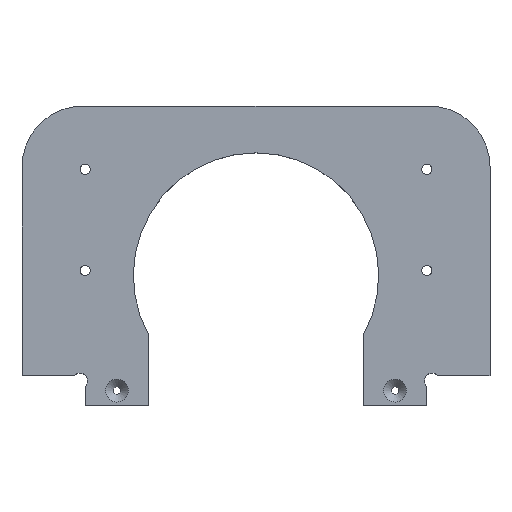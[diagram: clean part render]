
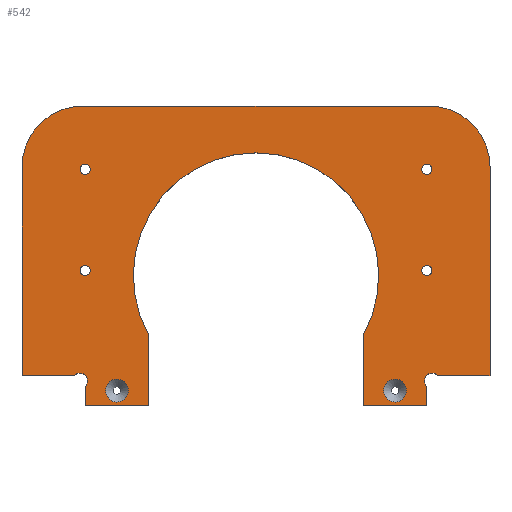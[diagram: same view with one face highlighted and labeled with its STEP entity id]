
A CAD part, top view. The second image highlights one B-rep face of the part: STEP entity #542.
In plain terms, the highlighted planar face has unit normal (0, 0, 1).
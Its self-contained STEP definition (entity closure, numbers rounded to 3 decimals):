
#26=FACE_BOUND('',#83,.T.);
#27=FACE_BOUND('',#84,.T.);
#28=FACE_BOUND('',#85,.T.);
#29=FACE_BOUND('',#86,.T.);
#30=FACE_BOUND('',#87,.T.);
#31=FACE_BOUND('',#88,.T.);
#38=PLANE('',#588);
#52=FACE_OUTER_BOUND('',#82,.T.);
#82=EDGE_LOOP('',(#383,#384,#385,#386,#387,#388,#389,#390,#391,#392,#393,
#394,#395,#396,#397,#398));
#83=EDGE_LOOP('',(#399));
#84=EDGE_LOOP('',(#400));
#85=EDGE_LOOP('',(#401));
#86=EDGE_LOOP('',(#402));
#87=EDGE_LOOP('',(#403));
#88=EDGE_LOOP('',(#404));
#124=LINE('',#823,#174);
#125=LINE('',#825,#175);
#126=LINE('',#827,#176);
#127=LINE('',#831,#177);
#128=LINE('',#833,#178);
#129=LINE('',#835,#179);
#130=LINE('',#839,#180);
#131=LINE('',#841,#181);
#132=LINE('',#845,#182);
#133=LINE('',#849,#183);
#134=LINE('',#850,#184);
#174=VECTOR('',#656,10.);
#175=VECTOR('',#657,10.);
#176=VECTOR('',#658,10.);
#177=VECTOR('',#661,10.);
#178=VECTOR('',#662,10.);
#179=VECTOR('',#663,10.);
#180=VECTOR('',#666,10.);
#181=VECTOR('',#667,10.);
#182=VECTOR('',#670,10.);
#183=VECTOR('',#673,10.);
#184=VECTOR('',#674,10.);
#223=CIRCLE('',#586,4.5);
#225=CIRCLE('',#589,3.05);
#226=CIRCLE('',#590,48.5);
#227=CIRCLE('',#591,3.05);
#228=CIRCLE('',#592,24.);
#229=CIRCLE('',#593,24.);
#230=CIRCLE('',#594,4.5);
#231=CIRCLE('',#595,2.);
#232=CIRCLE('',#596,2.);
#233=CIRCLE('',#597,2.);
#234=CIRCLE('',#598,2.);
#251=VERTEX_POINT('',#813);
#253=VERTEX_POINT('',#819);
#254=VERTEX_POINT('',#820);
#255=VERTEX_POINT('',#822);
#256=VERTEX_POINT('',#824);
#257=VERTEX_POINT('',#826);
#258=VERTEX_POINT('',#828);
#259=VERTEX_POINT('',#830);
#260=VERTEX_POINT('',#832);
#261=VERTEX_POINT('',#834);
#262=VERTEX_POINT('',#836);
#263=VERTEX_POINT('',#838);
#264=VERTEX_POINT('',#840);
#265=VERTEX_POINT('',#842);
#266=VERTEX_POINT('',#844);
#267=VERTEX_POINT('',#846);
#268=VERTEX_POINT('',#848);
#269=VERTEX_POINT('',#851);
#270=VERTEX_POINT('',#853);
#271=VERTEX_POINT('',#855);
#272=VERTEX_POINT('',#857);
#273=VERTEX_POINT('',#859);
#301=EDGE_CURVE('',#251,#251,#223,.T.);
#304=EDGE_CURVE('',#253,#254,#225,.T.);
#305=EDGE_CURVE('',#254,#255,#124,.T.);
#306=EDGE_CURVE('',#256,#255,#125,.T.);
#307=EDGE_CURVE('',#256,#257,#126,.T.);
#308=EDGE_CURVE('',#257,#258,#226,.T.);
#309=EDGE_CURVE('',#258,#259,#127,.T.);
#310=EDGE_CURVE('',#260,#259,#128,.T.);
#311=EDGE_CURVE('',#261,#260,#129,.T.);
#312=EDGE_CURVE('',#261,#262,#227,.T.);
#313=EDGE_CURVE('',#262,#263,#130,.T.);
#314=EDGE_CURVE('',#264,#263,#131,.T.);
#315=EDGE_CURVE('',#265,#264,#228,.T.);
#316=EDGE_CURVE('',#266,#265,#132,.T.);
#317=EDGE_CURVE('',#267,#266,#229,.T.);
#318=EDGE_CURVE('',#267,#268,#133,.T.);
#319=EDGE_CURVE('',#268,#253,#134,.T.);
#320=EDGE_CURVE('',#269,#269,#230,.T.);
#321=EDGE_CURVE('',#270,#270,#231,.T.);
#322=EDGE_CURVE('',#271,#271,#232,.T.);
#323=EDGE_CURVE('',#272,#272,#233,.T.);
#324=EDGE_CURVE('',#273,#273,#234,.T.);
#383=ORIENTED_EDGE('',*,*,#304,.T.);
#384=ORIENTED_EDGE('',*,*,#305,.T.);
#385=ORIENTED_EDGE('',*,*,#306,.F.);
#386=ORIENTED_EDGE('',*,*,#307,.T.);
#387=ORIENTED_EDGE('',*,*,#308,.T.);
#388=ORIENTED_EDGE('',*,*,#309,.T.);
#389=ORIENTED_EDGE('',*,*,#310,.F.);
#390=ORIENTED_EDGE('',*,*,#311,.F.);
#391=ORIENTED_EDGE('',*,*,#312,.T.);
#392=ORIENTED_EDGE('',*,*,#313,.T.);
#393=ORIENTED_EDGE('',*,*,#314,.F.);
#394=ORIENTED_EDGE('',*,*,#315,.F.);
#395=ORIENTED_EDGE('',*,*,#316,.F.);
#396=ORIENTED_EDGE('',*,*,#317,.F.);
#397=ORIENTED_EDGE('',*,*,#318,.T.);
#398=ORIENTED_EDGE('',*,*,#319,.T.);
#399=ORIENTED_EDGE('',*,*,#320,.F.);
#400=ORIENTED_EDGE('',*,*,#321,.F.);
#401=ORIENTED_EDGE('',*,*,#322,.F.);
#402=ORIENTED_EDGE('',*,*,#323,.F.);
#403=ORIENTED_EDGE('',*,*,#324,.F.);
#404=ORIENTED_EDGE('',*,*,#301,.F.);
#542=ADVANCED_FACE('',(#52,#26,#27,#28,#29,#30,#31),#38,.F.);
#586=AXIS2_PLACEMENT_3D('',#814,#647,#648);
#588=AXIS2_PLACEMENT_3D('',#818,#652,#653);
#589=AXIS2_PLACEMENT_3D('',#821,#654,#655);
#590=AXIS2_PLACEMENT_3D('',#829,#659,#660);
#591=AXIS2_PLACEMENT_3D('',#837,#664,#665);
#592=AXIS2_PLACEMENT_3D('',#843,#668,#669);
#593=AXIS2_PLACEMENT_3D('',#847,#671,#672);
#594=AXIS2_PLACEMENT_3D('',#852,#675,#676);
#595=AXIS2_PLACEMENT_3D('',#854,#677,#678);
#596=AXIS2_PLACEMENT_3D('',#856,#679,#680);
#597=AXIS2_PLACEMENT_3D('',#858,#681,#682);
#598=AXIS2_PLACEMENT_3D('',#860,#683,#684);
#647=DIRECTION('center_axis',(0.,0.,1.));
#648=DIRECTION('ref_axis',(1.,0.,0.));
#652=DIRECTION('center_axis',(0.,0.,-1.));
#653=DIRECTION('ref_axis',(-1.,0.,0.));
#654=DIRECTION('center_axis',(0.,0.,-1.));
#655=DIRECTION('ref_axis',(1.,0.,0.));
#656=DIRECTION('',(0.,-1.,0.));
#657=DIRECTION('',(-1.,0.,0.));
#658=DIRECTION('',(0.,1.,0.));
#659=DIRECTION('center_axis',(0.,0.,-1.));
#660=DIRECTION('ref_axis',(-1.,0.,0.));
#661=DIRECTION('',(0.,-1.,0.));
#662=DIRECTION('',(-1.,0.,0.));
#663=DIRECTION('',(0.,-1.,0.));
#664=DIRECTION('center_axis',(0.,0.,-1.));
#665=DIRECTION('ref_axis',(-1.,0.,0.));
#666=DIRECTION('',(1.,0.,0.));
#667=DIRECTION('',(0.,-1.,0.));
#668=DIRECTION('center_axis',(0.,0.,-1.));
#669=DIRECTION('ref_axis',(0.707,0.707,0.));
#670=DIRECTION('',(1.,0.,0.));
#671=DIRECTION('center_axis',(0.,0.,-1.));
#672=DIRECTION('ref_axis',(-0.707,0.707,0.));
#673=DIRECTION('',(0.,-1.,0.));
#674=DIRECTION('',(1.,0.,0.));
#675=DIRECTION('center_axis',(0.,0.,1.));
#676=DIRECTION('ref_axis',(1.,0.,0.));
#677=DIRECTION('center_axis',(0.,0.,1.));
#678=DIRECTION('ref_axis',(-1.,0.,0.));
#679=DIRECTION('center_axis',(0.,0.,1.));
#680=DIRECTION('ref_axis',(-1.,0.,0.));
#681=DIRECTION('center_axis',(0.,0.,1.));
#682=DIRECTION('ref_axis',(-1.,0.,0.));
#683=DIRECTION('center_axis',(0.,0.,1.));
#684=DIRECTION('ref_axis',(-1.,0.,0.));
#813=CARTESIAN_POINT('',(610.003,267.7,12.));
#814=CARTESIAN_POINT('Origin',(614.503,267.7,12.));
#818=CARTESIAN_POINT('Origin',(559.503,326.95,12.));
#819=CARTESIAN_POINT('',(487.69,273.7,12.));
#820=CARTESIAN_POINT('',(492.003,269.387,12.));
#821=CARTESIAN_POINT('Origin',(489.846,271.543,12.));
#822=CARTESIAN_POINT('',(492.003,261.7,12.));
#823=CARTESIAN_POINT('',(492.003,273.7,12.));
#824=CARTESIAN_POINT('',(517.003,261.7,12.));
#825=CARTESIAN_POINT('',(538.253,261.7,12.));
#826=CARTESIAN_POINT('',(517.003,289.833,12.));
#827=CARTESIAN_POINT('',(517.003,273.7,12.));
#828=CARTESIAN_POINT('',(602.003,289.833,12.));
#829=CARTESIAN_POINT('Origin',(559.503,313.2,12.));
#830=CARTESIAN_POINT('',(602.003,261.7,12.));
#831=CARTESIAN_POINT('',(602.003,273.7,12.));
#832=CARTESIAN_POINT('',(627.003,261.7,12.));
#833=CARTESIAN_POINT('',(593.253,261.7,12.));
#834=CARTESIAN_POINT('',(627.003,269.387,12.));
#835=CARTESIAN_POINT('',(627.003,273.7,12.));
#836=CARTESIAN_POINT('',(631.316,273.7,12.));
#837=CARTESIAN_POINT('Origin',(629.16,271.543,12.));
#838=CARTESIAN_POINT('',(652.003,273.7,12.));
#839=CARTESIAN_POINT('',(605.753,273.7,12.));
#840=CARTESIAN_POINT('',(652.003,356.2,12.));
#841=CARTESIAN_POINT('',(652.003,380.2,12.));
#842=CARTESIAN_POINT('',(628.003,380.2,12.));
#843=CARTESIAN_POINT('Origin',(628.003,356.2,12.));
#844=CARTESIAN_POINT('',(491.003,380.2,12.));
#845=CARTESIAN_POINT('',(377.003,380.2,12.));
#846=CARTESIAN_POINT('',(467.003,356.2,12.));
#847=CARTESIAN_POINT('Origin',(491.003,356.2,12.));
#848=CARTESIAN_POINT('',(467.003,273.7,12.));
#849=CARTESIAN_POINT('',(467.003,273.7,12.));
#850=CARTESIAN_POINT('',(513.253,273.7,12.));
#851=CARTESIAN_POINT('',(500.003,267.7,12.));
#852=CARTESIAN_POINT('Origin',(504.503,267.7,12.));
#853=CARTESIAN_POINT('',(629.003,355.2,12.));
#854=CARTESIAN_POINT('Origin',(627.003,355.2,12.));
#855=CARTESIAN_POINT('',(629.003,315.2,12.));
#856=CARTESIAN_POINT('Origin',(627.003,315.2,12.));
#857=CARTESIAN_POINT('',(494.003,355.2,12.));
#858=CARTESIAN_POINT('Origin',(492.003,355.2,12.));
#859=CARTESIAN_POINT('',(494.003,315.2,12.));
#860=CARTESIAN_POINT('Origin',(492.003,315.2,12.));
